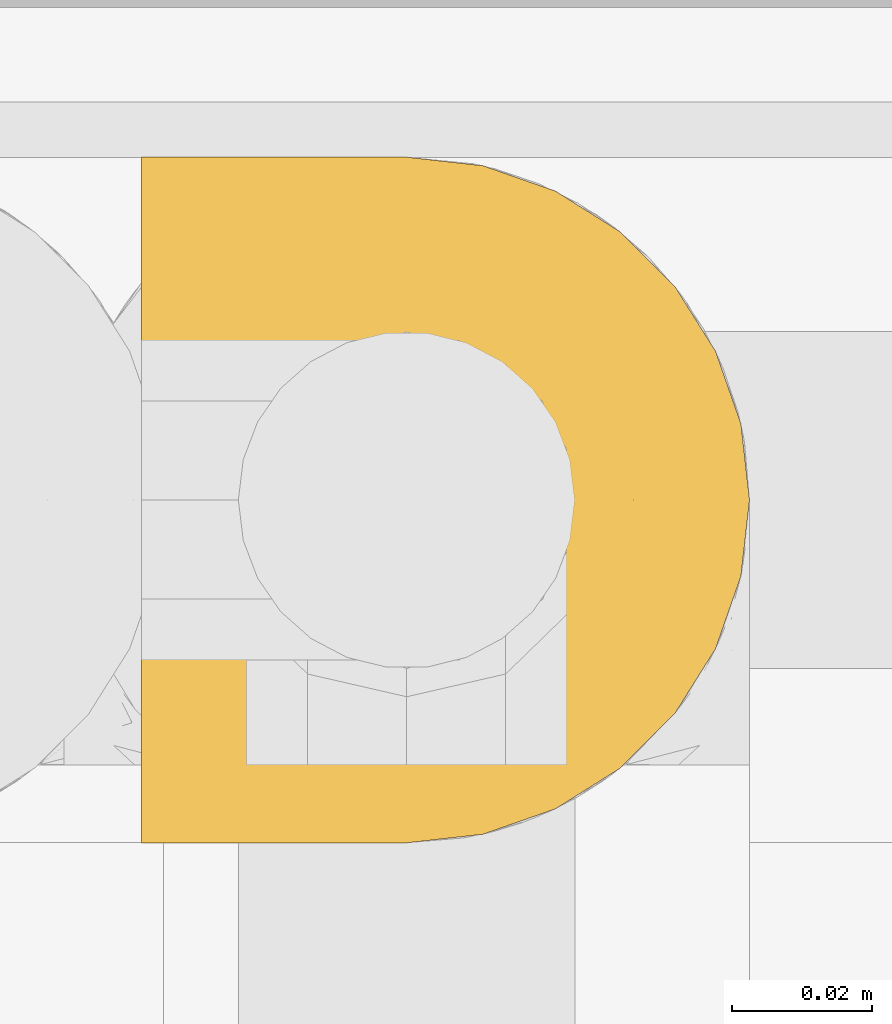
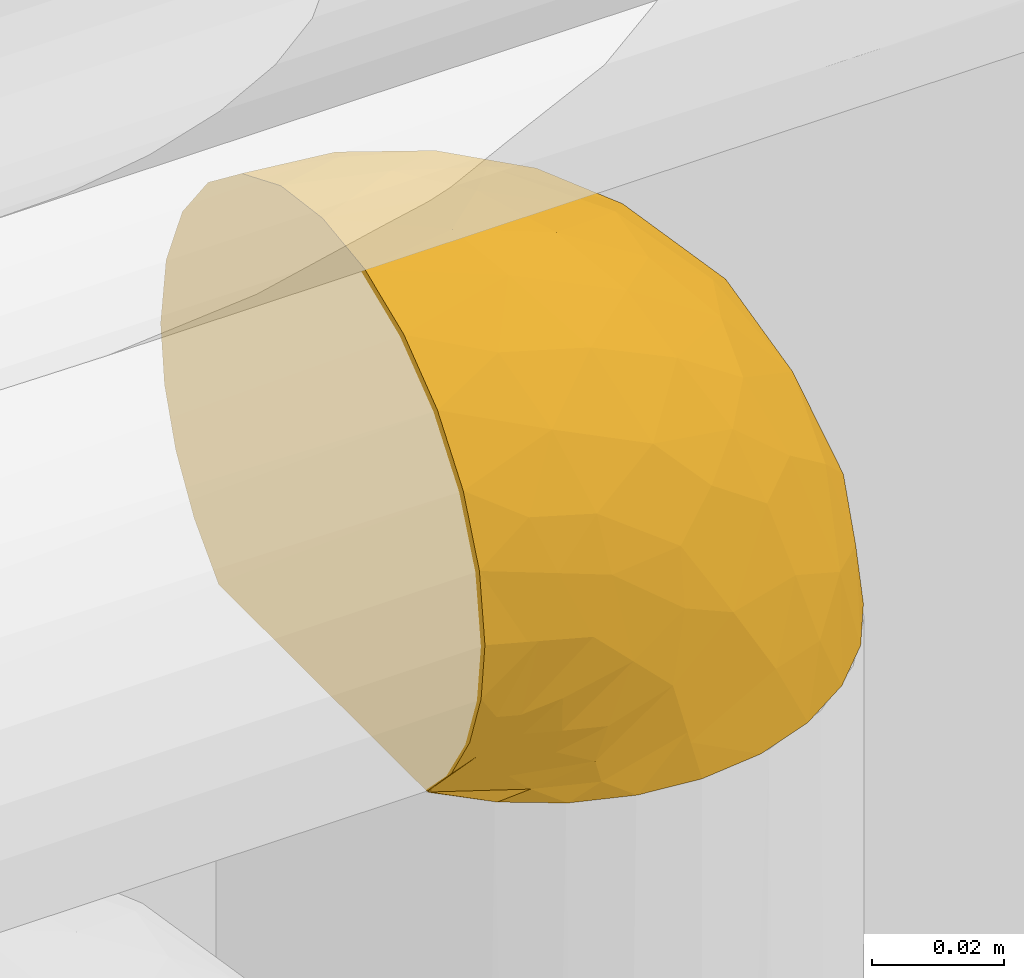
# One storey, part 50 of 94: 1 covering.
"""IFC2X3 building model written with IfcOpenShell, lengths in millimetres."""

from ifc_helpers import new_model, entity, si_unit, converted_unit, derived_unit, direction, frame, origin, place, context, subcontext, project, spatial, faceted_brep, material, element, save


model = new_model("IFC2X3")

# Units and contexts
model_context = context("Model", 3, precision=0.01, world=origin(), true_north=direction((6.123031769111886e-17, 1.0)))
body_context = subcontext(model_context, "Body", "Model", "MODEL_VIEW")
ifc_project = project(units=[si_unit("LENGTHUNIT", "METRE", prefix="MILLI"), si_unit("AREAUNIT", "SQUARE_METRE"), si_unit("VOLUMEUNIT", "CUBIC_METRE"), converted_unit("PLANEANGLEUNIT", "DEGREE", entity("IfcRatioMeasure", 0.017453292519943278), si_unit("PLANEANGLEUNIT", "RADIAN"), dimensions=[0, 0, 0, 0, 0, 0, 0]), si_unit("MASSUNIT", "GRAM", prefix="KILO"), derived_unit("MASSDENSITYUNIT", [(si_unit("MASSUNIT", "GRAM", prefix="KILO"), 1), (si_unit("LENGTHUNIT", "METRE"), -3)]), derived_unit("IONCONCENTRATIONUNIT", [(si_unit("MASSUNIT", "GRAM", prefix="KILO"), 1), (si_unit("LENGTHUNIT", "METRE"), -3)]), derived_unit("MOMENTOFINERTIAUNIT", [(si_unit("LENGTHUNIT", "METRE"), 4)]), si_unit("TIMEUNIT", "SECOND"), si_unit("FREQUENCYUNIT", "HERTZ"), si_unit("THERMODYNAMICTEMPERATUREUNIT", "DEGREE_CELSIUS"), derived_unit("THERMALTRANSMITTANCEUNIT", [(si_unit("MASSUNIT", "GRAM", prefix="KILO"), 1), (si_unit("THERMODYNAMICTEMPERATUREUNIT", "KELVIN"), -1), (si_unit("TIMEUNIT", "SECOND"), -3)]), derived_unit("THERMALCONDUCTANCEUNIT", [(si_unit("MASSUNIT", "GRAM", prefix="KILO"), 1), (si_unit("THERMODYNAMICTEMPERATUREUNIT", "KELVIN"), -1), (si_unit("TIMEUNIT", "SECOND"), -3), (si_unit("LENGTHUNIT", "METRE"), 1)]), derived_unit("VOLUMETRICFLOWRATEUNIT", [(si_unit("LENGTHUNIT", "METRE"), 3), (si_unit("TIMEUNIT", "SECOND"), -1)]), derived_unit("MASSFLOWRATEUNIT", [(si_unit("MASSUNIT", "GRAM", prefix="KILO"), 1), (si_unit("TIMEUNIT", "SECOND"), -1)]), derived_unit("ROTATIONALFREQUENCYUNIT", [(si_unit("TIMEUNIT", "SECOND"), -1)]), si_unit("ELECTRICCURRENTUNIT", "AMPERE"), si_unit("ELECTRICVOLTAGEUNIT", "VOLT"), si_unit("POWERUNIT", "WATT"), si_unit("FORCEUNIT", "NEWTON", prefix="KILO"), si_unit("ILLUMINANCEUNIT", "LUX"), si_unit("LUMINOUSFLUXUNIT", "LUMEN"), si_unit("LUMINOUSINTENSITYUNIT", "CANDELA"), derived_unit("USERDEFINED", [(si_unit("MASSUNIT", "GRAM", prefix="KILO"), -1), (si_unit("LENGTHUNIT", "METRE"), -2), (si_unit("TIMEUNIT", "SECOND"), 3), (si_unit("LUMINOUSFLUXUNIT", "LUMEN"), 1)]), derived_unit("USERDEFINED", [(si_unit("MASSUNIT", "GRAM", prefix="KILO"), 1), (si_unit("TIMEUNIT", "SECOND"), -3), (si_unit("LENGTHUNIT", "METRE"), 3), (si_unit("ELECTRICCURRENTUNIT", "AMPERE"), -2)]), derived_unit("SOUNDPOWERUNIT", [(si_unit("MASSUNIT", "GRAM", prefix="KILO"), 1), (si_unit("TIMEUNIT", "SECOND"), -3), (si_unit("LENGTHUNIT", "METRE"), 2)]), derived_unit("SOUNDPRESSUREUNIT", [(si_unit("MASSUNIT", "GRAM", prefix="KILO"), 1), (si_unit("LENGTHUNIT", "METRE"), -1), (si_unit("TIMEUNIT", "SECOND"), -2)]), derived_unit("LINEARVELOCITYUNIT", [(si_unit("LENGTHUNIT", "METRE"), 1), (si_unit("TIMEUNIT", "SECOND"), -1)]), si_unit("PRESSUREUNIT", "PASCAL"), derived_unit("USERDEFINED", [(si_unit("MASSUNIT", "GRAM", prefix="KILO"), 1), (si_unit("LENGTHUNIT", "METRE"), -2), (si_unit("TIMEUNIT", "SECOND"), -2)]), derived_unit("LINEARFORCEUNIT", [(si_unit("MASSUNIT", "GRAM", prefix="KILO"), 1), (si_unit("TIMEUNIT", "SECOND"), -2)]), derived_unit("PLANARFORCEUNIT", [(si_unit("MASSUNIT", "GRAM", prefix="KILO"), 1), (si_unit("LENGTHUNIT", "METRE"), -1), (si_unit("TIMEUNIT", "SECOND"), -2)]), derived_unit("SPECIFICHEATCAPACITYUNIT", [(si_unit("THERMODYNAMICTEMPERATUREUNIT", "KELVIN"), -1), (si_unit("LENGTHUNIT", "METRE"), 2), (si_unit("TIMEUNIT", "SECOND"), -2)]), derived_unit("HEATINGVALUEUNIT", [(si_unit("LENGTHUNIT", "METRE"), 2), (si_unit("TIMEUNIT", "SECOND"), -2)]), derived_unit("VAPORPERMEABILITYUNIT", [(si_unit("LENGTHUNIT", "METRE"), -1), (si_unit("TIMEUNIT", "SECOND"), 1)]), derived_unit("DYNAMICVISCOSITYUNIT", [(si_unit("MASSUNIT", "GRAM", prefix="KILO"), 1), (si_unit("TIMEUNIT", "SECOND"), -1), (si_unit("LENGTHUNIT", "METRE"), -1)]), derived_unit("THERMALEXPANSIONCOEFFICIENTUNIT", [(si_unit("THERMODYNAMICTEMPERATUREUNIT", "KELVIN"), -1)]), derived_unit("MODULUSOFELASTICITYUNIT", [(si_unit("MASSUNIT", "GRAM", prefix="KILO"), 1), (si_unit("LENGTHUNIT", "METRE"), -1), (si_unit("TIMEUNIT", "SECOND"), -2)]), derived_unit("ISOTHERMALMOISTURECAPACITYUNIT", [(si_unit("LENGTHUNIT", "METRE"), 3), (si_unit("MASSUNIT", "GRAM", prefix="KILO"), -1)]), derived_unit("MOISTUREDIFFUSIVITYUNIT", [(si_unit("TIMEUNIT", "SECOND"), -1), (si_unit("LENGTHUNIT", "METRE"), 2)])], contexts=[model_context])

# Site, building, storey
site_placement = place(None, origin())
site = spatial("IfcSite", under=ifc_project, at=site_placement, Name="Default", CompositionType="ELEMENT")
building_placement = place(site_placement, origin())
building = spatial("IfcBuilding", under=site, at=building_placement, CompositionType="ELEMENT")
storey_placement = place(building_placement, origin())
storey = spatial("IfcBuildingStorey", under=building, at=storey_placement, Name="Niveau 0", CompositionType="ELEMENT", Elevation=0.0)

# Covering
ifc_material = material(Name="Isolation - Laine minérale")
covering_placement = place(storey_placement, frame((-6966.335954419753, 9976.100352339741, 2400.745272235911)))
element("IfcCovering", 1, at=covering_placement, inside=storey, material=ifc_material, Name="Isolation des canalisations:Laine minérale", ObjectType="Isolation des canalisations:Laine minérale", PredefinedType="INSULATION", context=body_context, shape_type="Brep", body=[
    faceted_brep([(60.92840990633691, 95.02415814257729, -88.74527223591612), (70.2472924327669, 89.1663101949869, -88.74527223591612), (78.02799613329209, 81.38263886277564, -88.74527223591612), (83.88131648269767, 72.06354573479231, -88.74527223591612), (87.51440414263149, 61.67593083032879, -88.74527223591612), (88.74527223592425, 50.74527223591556, -88.74527223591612), (87.51173151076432, 39.80290363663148, -88.74527223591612), (83.8741581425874, 29.412134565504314, -88.74527223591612), (78.01631019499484, 20.093252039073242, -88.74527223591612), (70.23263886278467, 12.312548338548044, -88.74527223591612), (60.913545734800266, 6.459227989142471, -88.74527223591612), (50.52593083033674, 2.826140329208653, -88.74527223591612), (39.59527223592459, 1.5952722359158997, -88.74527223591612), (28.93618624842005, 2.765001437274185, -88.74527223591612), (18.787971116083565, 6.216868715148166, -88.74527223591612), (9.631578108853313, 11.785042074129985, -88.74527223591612), (1.908891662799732, 19.19437336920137, -88.74527223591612), (1.908891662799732, 21.638642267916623, -88.74527223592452), (1.908891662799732, 23.41569473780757, -88.74527223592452), (1.908891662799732, 25.192747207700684, -88.74527223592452), (1.908891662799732, 26.692340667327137, -88.74527223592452), (1.908891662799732, 28.191934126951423, -88.74527223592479), (1.908891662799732, 31.191121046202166, -88.74527223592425), (1.908891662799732, 34.19030796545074, -88.74527223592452), (1.908891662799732, 37.18949488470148, -88.74527223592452), (1.908891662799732, 40.18868180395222, -88.74527223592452), (1.908891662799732, 41.68827526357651, -88.74527223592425), (1.908891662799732, 43.1878687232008, -88.74527223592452), (1.908891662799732, 45.63213762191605, -88.74527223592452), (1.908891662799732, 48.07640652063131, -88.74527223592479), (1.908891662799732, 50.5206754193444, -88.74527223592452), (1.908891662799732, 52.96494431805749, -88.74527223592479), (1.908891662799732, 55.40921321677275, -88.74527223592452), (1.908891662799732, 57.853482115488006, -88.74527223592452), (1.908891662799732, 60.2977510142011, -88.74527223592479), (1.908891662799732, 62.74201991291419, -88.74527223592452), (1.908891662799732, 65.18628881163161, -88.74527223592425), (1.908891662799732, 67.6305577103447, -88.74527223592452), (1.908891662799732, 70.0748266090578, -88.74527223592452), (1.908891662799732, 72.51909550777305, -88.74527223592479), (1.908891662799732, 74.96336440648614, -88.74527223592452), (1.908891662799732, 77.4076333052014, -88.74527223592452), (1.908891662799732, 79.85190220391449, -88.74527223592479), (1.908891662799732, 82.29617110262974, -88.74527223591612), (9.648191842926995, 89.71827412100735, -88.74527223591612), (18.809406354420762, 95.28368576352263, -88.74527223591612), (28.956643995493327, 98.73008326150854, -88.74527223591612), (39.59527223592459, 99.89527223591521, -88.74527223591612), (50.53764083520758, 98.66173151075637, -88.74527223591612), (1.5952722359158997, 11.777056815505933, -80.69858068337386), (1.5952722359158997, 6.211862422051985, -71.54185633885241), (1.5952722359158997, 2.7632985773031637, -61.39669016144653), (1.5952722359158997, 1.5952722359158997, -50.74527223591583), (1.5952722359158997, 3.270017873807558, -38.02431616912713), (1.5952722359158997, 8.18012363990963, -26.170272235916), (1.5952722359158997, 15.990973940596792, -15.990973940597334), (1.5952722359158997, 26.170272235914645, -8.180123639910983), (1.5952722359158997, 38.02431616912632, -3.2700178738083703), (1.5952722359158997, 50.74527223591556, -1.5952722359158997), (1.5952722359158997, 63.46622830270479, -3.2700178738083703), (1.5952722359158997, 75.3202722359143, -8.180123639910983), (1.5952722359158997, 85.49957053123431, -15.990973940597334), (1.5952722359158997, 93.31042083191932, -26.170272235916), (1.5952722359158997, 98.22052659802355, -38.02431616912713), (1.5952722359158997, 99.89527223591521, -50.7452722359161), (1.5952722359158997, 98.72724589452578, -61.39669016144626), (1.5952722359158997, 95.27868204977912, -71.54185633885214), (1.5952722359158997, 89.71348765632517, -80.69858068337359), (1.5952722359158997, 82.29617110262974, -88.43165280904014), (1.5952722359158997, 79.85190220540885, -88.43165280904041), (1.5952722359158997, 78.3523087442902, -88.43165280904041), (1.5952722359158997, 76.3803775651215, -88.43165280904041), (1.5952722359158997, 74.40844638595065, -88.43165280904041), (1.5952722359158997, 72.43651520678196, -88.43165280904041), (1.5952722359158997, 70.46458402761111, -88.43165280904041), (1.5952722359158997, 68.49265284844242, -88.43165280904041), (1.5952722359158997, 66.52072166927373, -88.43165280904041), (1.5952722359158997, 64.54879049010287, -88.43165280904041), (1.5952722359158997, 62.57685931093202, -88.43165280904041), (1.5952722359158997, 60.60492813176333, -88.43165280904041), (1.5952722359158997, 58.632996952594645, -88.43165280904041), (1.5952722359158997, 56.66106577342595, -88.43165280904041), (1.5952722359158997, 54.6891345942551, -88.43165280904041), (1.5952722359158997, 52.71720341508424, -88.43165280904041), (1.5952722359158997, 50.74527223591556, -88.43165280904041), (1.5952722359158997, 48.773341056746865, -88.43165280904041), (1.5952722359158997, 46.80140987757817, -88.43165280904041), (1.5952722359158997, 44.82947869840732, -88.43165280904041), (1.5952722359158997, 42.85754751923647, -88.43165280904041), (1.5952722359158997, 40.88561634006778, -88.43165280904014), (1.5952722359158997, 38.913685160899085, -88.43165280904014), (1.5952722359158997, 36.94175398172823, -88.43165280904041), (1.5952722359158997, 34.96982280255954, -88.43165280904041), (1.5952722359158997, 31.97063588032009, -88.43165280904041), (1.5952722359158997, 28.971448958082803, -88.43165280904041), (1.5952722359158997, 26.5271800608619, -88.43165280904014), (1.5952722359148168, 24.082911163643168, -88.43165280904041), (1.5952722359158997, 21.638642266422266, -88.43165280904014), (1.5952722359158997, 19.19437336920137, -88.43165280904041), (1.809643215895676, 53.75333970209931, -88.51635690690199), (1.8184361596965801, 51.832765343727, -88.5249202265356), (1.8193226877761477, 61.47290163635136, -88.52582169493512), (1.8127644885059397, 63.562825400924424, -88.51932032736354), (1.7996191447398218, 48.00102702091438, -88.50736577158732), (1.8054799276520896, 77.2499939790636, -88.51252801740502), (1.8492387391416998, 80.69913834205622, -88.56126636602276), (1.8224415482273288, 42.43807145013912, -88.52905186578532), (1.817034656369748, 22.860776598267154, -88.5235098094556), (1.8150629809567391, 24.70021643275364, -88.52155551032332), (1.824011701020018, 71.3700895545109, -88.53071361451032), (1.8138012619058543, 73.40383885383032, -88.52032288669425), (1.8358544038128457, 44.410002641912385, -88.54408236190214), (1.810897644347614, 37.92771907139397, -88.51753811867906), (1.8073683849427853, 39.81308540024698, -88.51424763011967), (1.824691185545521, 35.95578792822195, -88.53144031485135), (1.8114022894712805, 49.75930651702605, -88.51801699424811), (1.8146264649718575, 21.02757498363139, -88.52112749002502), (1.8038954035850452, 55.67510065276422, -88.51110665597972), (1.8030656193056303, 67.50668767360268, -88.51037001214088), (1.8078125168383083, 65.61454699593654, -88.51465616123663), (1.8062814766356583, 34.104580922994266, -88.5132544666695), (1.8068444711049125, 57.55217518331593, -88.51376773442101), (1.8170346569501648, 79.10210557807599, -88.52350981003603), (1.8056127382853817, 75.39441218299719, -88.51264803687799), (1.8170346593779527, 82.29617110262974, -88.523509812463), (1.845664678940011, 82.29617110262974, -88.59262879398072), (1.8742946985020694, 82.2961711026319, -88.66174777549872), (1.8170346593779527, 19.19437336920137, -88.523509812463), (1.7479156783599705, 19.19437336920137, -88.49487979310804), (1.6787966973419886, 19.19437336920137, -88.46624977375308), (1.8305380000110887, 32.212157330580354, -88.5378905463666), (1.8101196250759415, 69.4355922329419, -88.51680397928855), (1.8180768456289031, 46.248287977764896, -88.52455691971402), (1.8158402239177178, 59.49061335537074, -88.522321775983), (1.8347511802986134, 29.41925201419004, -88.54277043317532), (1.8131030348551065, 27.44213716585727, -88.51964668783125), (1.6787966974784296, 82.29617110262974, -88.46624977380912), (1.7479156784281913, 82.29617110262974, -88.49487979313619), (1.8742946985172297, 19.19437336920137, -88.66174777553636), (1.8456646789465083, 19.19437336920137, -88.59262879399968), (5.119742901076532, 4.210283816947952, -66.84532494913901), (4.404433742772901, 8.744179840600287, -76.59278810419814), (9.262466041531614, 4.210283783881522, -67.93076460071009), (7.207652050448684, 9.955583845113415, -79.77802179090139), (11.095272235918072, 1.5952722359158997, -53.290789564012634), (9.051642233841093, 1.5952722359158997, -52.74320055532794), (34.50423757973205, 1.5952722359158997, -69.74527223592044), (23.94501445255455, 2.93549782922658, -74.3203947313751), (22.40014043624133, 4.213452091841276, -81.07886680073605), (20.595272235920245, 1.5952722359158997, -55.83630689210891), (9.666760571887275, 9.405305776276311, -80.67264697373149), (10.551623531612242, 9.963487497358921, -83.13763204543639), (16.01945088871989, 2.9356418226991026, -66.39579772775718), (23.485838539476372, 4.213452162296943, -85.22115378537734), (13.737180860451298, 8.750654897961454, -85.93765126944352), (10.691425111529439, 5.690627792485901, -72.79903813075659), (37.59734395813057, 1.5952722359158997, -81.28890239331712), (37.049754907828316, 1.5952722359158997, -79.24527223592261), (16.728859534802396, 4.482619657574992, -73.61168502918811), (27.549754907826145, 1.5952722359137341, -62.79078956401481), (16.460659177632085, 5.766057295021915, -78.26898539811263), (15.011407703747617, 2.6117250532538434, -42.71659351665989), (24.42980261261, 2.657531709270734, -46.33910334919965), (36.49293031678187, 11.131578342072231, -31.440845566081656), (31.204032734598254, 20.824647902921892, -17.672829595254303), (19.174422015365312, 11.7519547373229, -23.1389879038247), (23.335091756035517, 5.336592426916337, -36.26070217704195), (11.460031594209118, 5.33659286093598, -32.79943692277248), (52.82075697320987, 50.74527223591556, -18.239441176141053), (28.52610329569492, 50.74527223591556, -5.860696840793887), (36.46534309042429, 40.339739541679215, -10.09253095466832), (64.55560047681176, 9.12424327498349, -76.48910815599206), (54.096361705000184, 4.351045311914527, -75.175259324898), (60.7776621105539, 32.64695426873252, -29.562886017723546), (59.569862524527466, 23.768909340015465, -34.954708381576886), (75.0483217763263, 35.61531809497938, -46.443169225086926), (19.026686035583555, 41.696133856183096, -4.214063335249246), (43.09951705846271, 30.50981773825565, -17.108860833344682), (46.8366514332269, 21.748430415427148, -25.593158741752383), (15.050691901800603, 20.824647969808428, -12.936813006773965), (23.237814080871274, 31.9363827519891, -8.193374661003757), (53.24134352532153, 15.984346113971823, -37.51142897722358), (45.825367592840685, 9.509703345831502, -41.4615790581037), (56.63576814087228, 11.405769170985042, -49.733323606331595), (46.288849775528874, 3.723532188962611, -61.57059128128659), (60.29646320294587, 9.124242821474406, -62.89209880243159), (72.02820629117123, 15.984347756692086, -70.54017915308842), (84.47984763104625, 50.74527223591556, -61.81444117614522), (83.29913826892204, 34.50535109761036, -67.62492254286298), (64.72607481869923, 18.53593481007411, -48.02305876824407), (74.45362859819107, 24.588194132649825, -56.65671676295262), (79.74013519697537, 24.58819389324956, -73.53357104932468), (51.83676030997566, 39.07585882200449, -19.26196392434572), (64.99536385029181, 42.346184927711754, -30.008052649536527), (37.17704034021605, 2.563252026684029, -56.96722300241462), (72.10110329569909, 50.74527223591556, -37.51978749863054), (37.64584570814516, 4.72244931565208, -46.87511479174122), (32.164652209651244, 69.55416102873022, -11.140369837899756), (18.639631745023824, 59.5851078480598, -4.095656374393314), (35.766211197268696, 59.865425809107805, -9.502474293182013), (47.842493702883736, 66.13789702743, -17.812384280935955), (15.27818958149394, 69.55416221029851, -6.46656563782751), (65.81540325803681, 85.49332197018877, -54.5418837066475), (64.55420181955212, 78.98858976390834, -42.32008170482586), (74.46231326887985, 76.88743080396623, -56.65317707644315), (53.25075234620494, 85.49294527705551, -37.50209525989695), (54.62718238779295, 78.28666517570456, -30.584563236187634), (54.10903567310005, 97.13479117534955, -75.17052823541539), (19.802502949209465, 98.95303587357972, -44.78912737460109), (20.595272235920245, 99.89527223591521, -55.83630689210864), (11.095272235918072, 99.89527223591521, -53.290789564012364), (83.30424504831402, 66.97173870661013, -67.62586672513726), (21.09968330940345, 80.665896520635, -14.26340359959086), (60.31003237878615, 92.35692696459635, -62.885892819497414), (64.57029925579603, 92.35692651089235, -76.486535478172), (13.465140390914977, 89.73858944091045, -21.869885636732), (16.335810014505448, 96.15395178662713, -33.88211097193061), (41.93007422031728, 79.62483877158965, -22.251999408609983), (27.71501397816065, 89.7385902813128, -26.04782376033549), (59.119767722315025, 59.508159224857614, -24.3292880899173), (60.78019907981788, 68.83452868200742, -29.560349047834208), (10.513874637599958, 99.01263503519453, -42.32143211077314), (79.74926997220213, 76.88743104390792, -73.53143463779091), (75.05329716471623, 65.85652255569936, -46.439690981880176), (72.04103767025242, 85.49294363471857, -70.53686254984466), (46.290673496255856, 97.76388503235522, -61.55381762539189), (34.50423757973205, 99.89527223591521, -69.74527223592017), (36.10518198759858, 98.78930951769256, -54.85547791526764), (27.549754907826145, 99.89527223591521, -62.79078956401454), (37.59734395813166, 99.89527223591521, -81.28890239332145), (37.049754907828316, 99.89527223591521, -79.24527223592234), (41.92842909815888, 91.50386042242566, -37.17763207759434), (26.19749743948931, 96.4268312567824, -38.287459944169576), (50.23414181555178, 93.14991945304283, -48.939507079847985), (27.449810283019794, 99.08337182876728, -49.619322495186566), (42.66776613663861, 86.09107557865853, -29.42376899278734), (34.950986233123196, 96.67816905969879, -44.39993285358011), (9.262466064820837, 97.28026029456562, -67.93076584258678), (12.074879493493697, 95.72662397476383, -73.87629022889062), (16.019815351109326, 98.55465842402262, -66.39725193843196), (5.119743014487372, 97.28026045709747, -66.84532555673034), (4.404433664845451, 92.74636428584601, -76.59278866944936), (7.207972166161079, 91.53641117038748, -79.77567656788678), (7.658564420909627, 90.11275627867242, -82.68391989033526), (16.72348065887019, 97.0051951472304, -73.61706313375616), (10.58277305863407, 91.54965419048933, -83.12402653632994), (22.422090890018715, 97.2842704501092, -81.07735934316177), (23.507196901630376, 97.28427059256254, -85.22095110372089), (13.756054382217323, 92.75147496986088, -85.93466595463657), (23.942836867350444, 98.55441347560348, -74.32191718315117), (17.55671847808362, 95.80583125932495, -79.64839749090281)], [[[0, 1, 2, 3, 4, 5, 6, 7, 8, 9, 10, 11, 12, 13, 14, 15, 16, 17, 18, 19, 20, 21, 22, 23, 24, 25, 26, 27, 28, 29, 30, 31, 32, 33, 34, 35, 36, 37, 38, 39, 40, 41, 42, 43, 44, 45, 46, 47, 48]], [[49, 50, 51, 52, 53, 54, 55, 56, 57, 58, 59, 60, 61, 62, 63, 64, 65, 66, 67, 68, 69, 70, 71, 72, 73, 74, 75, 76, 77, 78, 79, 80, 81, 82, 83, 84, 85, 86, 87, 88, 89, 90, 91, 92, 93, 94, 95, 96, 97, 98]], [[99, 100, 83]], [[101, 102, 35]], [[85, 103, 86]], [[71, 70, 104]], [[105, 69, 68]], [[27, 26, 106]], [[18, 107, 108]], [[109, 73, 110]], [[28, 27, 111]], [[25, 112, 113]], [[108, 96, 95]], [[114, 92, 91]], [[103, 85, 115]], [[96, 107, 97]], [[107, 17, 116]], [[78, 102, 101]], [[99, 117, 32]], [[76, 118, 119]], [[120, 92, 114]], [[112, 90, 113]], [[88, 111, 106]], [[40, 39, 110]], [[107, 96, 108]], [[32, 117, 121]], [[91, 90, 112]], [[37, 119, 118]], [[84, 115, 85]], [[69, 105, 122]], [[71, 123, 72]], [[105, 124, 125, 126, 43]], [[116, 17, 16]], [[122, 70, 69]], [[41, 122, 42]], [[116, 127, 128, 129, 98]], [[110, 123, 40]], [[42, 122, 105]], [[120, 23, 130]], [[24, 114, 112]], [[114, 24, 23]], [[104, 123, 71]], [[91, 112, 114]], [[104, 122, 41]], [[24, 112, 25]], [[110, 72, 123]], [[36, 119, 37]], [[40, 123, 41]], [[74, 73, 109]], [[131, 75, 74]], [[118, 131, 37]], [[109, 110, 39]], [[109, 39, 38]], [[73, 72, 110]], [[123, 104, 41]], [[122, 104, 70]], [[26, 25, 113]], [[113, 89, 106]], [[87, 86, 132]], [[113, 106, 26]], [[76, 75, 118]], [[132, 111, 87]], [[106, 111, 27]], [[132, 28, 111]], [[87, 111, 88]], [[88, 106, 89]], [[113, 90, 89]], [[131, 118, 75]], [[38, 37, 131]], [[119, 36, 102]], [[131, 109, 38]], [[109, 131, 74]], [[78, 77, 102]], [[77, 119, 102]], [[77, 76, 119]], [[121, 80, 133]], [[36, 35, 102]], [[33, 121, 133]], [[79, 78, 101]], [[34, 101, 35]], [[132, 29, 28]], [[80, 79, 133]], [[29, 103, 115]], [[30, 29, 115]], [[86, 103, 132]], [[100, 115, 84]], [[31, 30, 100]], [[115, 100, 30]], [[32, 31, 99]], [[117, 81, 121]], [[100, 84, 83]], [[99, 82, 117]], [[81, 117, 82]], [[33, 32, 121]], [[82, 99, 83]], [[100, 99, 31]], [[34, 33, 133]], [[121, 81, 80]], [[133, 101, 34]], [[101, 133, 79]], [[134, 94, 93]], [[23, 120, 114]], [[132, 103, 29]], [[120, 93, 92]], [[93, 120, 130]], [[97, 107, 116]], [[108, 20, 19, 18]], [[21, 135, 134]], [[20, 135, 21]], [[134, 135, 94]], [[108, 95, 135]], [[108, 135, 20]], [[135, 95, 94]], [[134, 22, 21]], [[130, 22, 134]], [[42, 105, 43]], [[105, 68, 136, 137, 124]], [[97, 116, 98]], [[116, 16, 138, 139, 127]], [[18, 17, 107]], [[93, 130, 134]], [[22, 130, 23]], [[140, 141, 142]], [[143, 129, 128, 127]], [[51, 144, 145, 52]], [[146, 147, 148]], [[142, 149, 144]], [[150, 127, 151]], [[50, 140, 51]], [[142, 152, 149]], [[51, 140, 144]], [[129, 143, 141]], [[14, 13, 153]], [[148, 151, 154]], [[155, 141, 143]], [[151, 138, 154]], [[14, 153, 154]], [[16, 15, 138]], [[13, 12, 156, 157]], [[152, 155, 158]], [[159, 158, 147]], [[157, 148, 153]], [[14, 154, 15]], [[49, 98, 129]], [[49, 129, 141]], [[141, 50, 49]], [[160, 148, 147]], [[146, 148, 157]], [[138, 15, 154]], [[150, 158, 155]], [[151, 127, 139, 138]], [[141, 140, 50]], [[144, 140, 142]], [[157, 153, 13]], [[154, 153, 148]], [[149, 152, 159]], [[160, 147, 158]], [[147, 146, 159]], [[155, 152, 142]], [[159, 152, 158]], [[127, 150, 143]], [[160, 150, 151]], [[150, 160, 158]], [[148, 160, 151]], [[141, 155, 142]], [[155, 143, 150]], [[156, 12, 11]], [[161, 149, 162]], [[163, 164, 165]], [[166, 167, 161]], [[168, 169, 170]], [[54, 165, 55]], [[171, 172, 10]], [[173, 174, 175]], [[57, 176, 58]], [[173, 177, 178]], [[179, 56, 55]], [[54, 167, 165]], [[170, 180, 177]], [[56, 179, 180]], [[167, 54, 53]], [[181, 182, 183]], [[184, 146, 172]], [[172, 185, 184]], [[186, 185, 171]], [[186, 9, 8]], [[172, 146, 157, 156]], [[172, 11, 10]], [[173, 178, 174]], [[6, 187, 188]], [[189, 186, 190]], [[191, 186, 8]], [[175, 190, 188]], [[168, 192, 193]], [[189, 190, 174]], [[56, 180, 57]], [[8, 7, 191]], [[188, 7, 6]], [[6, 5, 187]], [[190, 191, 188]], [[159, 194, 162]], [[175, 187, 195]], [[177, 180, 164]], [[10, 9, 171]], [[176, 180, 170]], [[156, 11, 172]], [[163, 165, 166]], [[179, 165, 164]], [[53, 52, 145]], [[185, 189, 183]], [[184, 196, 194]], [[188, 191, 7]], [[186, 191, 190]], [[186, 171, 9]], [[172, 171, 185]], [[187, 175, 188]], [[193, 175, 195]], [[196, 163, 166]], [[163, 181, 178]], [[162, 166, 161]], [[184, 185, 183]], [[178, 177, 164]], [[177, 192, 170]], [[177, 173, 192]], [[176, 170, 169]], [[58, 176, 169]], [[57, 180, 176]], [[193, 192, 173]], [[168, 170, 192]], [[175, 193, 173]], [[168, 193, 195]], [[163, 178, 164]], [[184, 194, 146]], [[178, 181, 174]], [[189, 174, 181]], [[175, 174, 190]], [[183, 189, 181]], [[186, 189, 185]], [[182, 181, 163]], [[183, 182, 184]], [[163, 196, 182]], [[184, 182, 196]], [[165, 179, 55]], [[180, 179, 164]], [[161, 53, 145]], [[165, 167, 166]], [[53, 161, 167]], [[161, 145, 144, 149]], [[159, 162, 149]], [[196, 166, 162]], [[162, 194, 196]], [[146, 194, 159]], [[197, 198, 199]], [[58, 169, 198]], [[197, 199, 200]], [[198, 197, 201]], [[202, 203, 204]], [[60, 59, 201]], [[205, 206, 203]], [[0, 48, 207]], [[208, 209, 210]], [[187, 4, 211]], [[201, 212, 60]], [[213, 214, 207]], [[61, 215, 62]], [[62, 215, 216]], [[3, 211, 4]], [[217, 218, 212]], [[219, 220, 200]], [[216, 208, 221]], [[3, 2, 222]], [[62, 216, 63]], [[61, 60, 212]], [[211, 3, 222]], [[5, 4, 187]], [[217, 197, 200]], [[203, 223, 204]], [[2, 1, 224]], [[225, 213, 207]], [[204, 222, 224]], [[1, 0, 214]], [[204, 224, 202]], [[207, 226, 225]], [[227, 226, 228]], [[223, 211, 204]], [[214, 224, 1]], [[202, 224, 213]], [[48, 47, 229]], [[207, 229, 230, 226]], [[211, 223, 187]], [[218, 231, 232]], [[48, 229, 207]], [[205, 233, 231]], [[233, 213, 225]], [[217, 212, 197]], [[215, 212, 218]], [[228, 234, 227]], [[233, 205, 202]], [[208, 234, 209]], [[63, 221, 64]], [[235, 205, 231]], [[207, 214, 0]], [[224, 214, 213]], [[224, 222, 2]], [[211, 222, 204]], [[219, 223, 220]], [[187, 223, 195]], [[227, 233, 225]], [[234, 228, 209]], [[231, 233, 236]], [[221, 208, 210]], [[232, 208, 216]], [[64, 221, 210]], [[216, 221, 63]], [[233, 202, 213]], [[203, 202, 205]], [[205, 235, 206]], [[223, 203, 220]], [[200, 206, 217]], [[220, 203, 206]], [[232, 231, 236]], [[235, 218, 217]], [[212, 215, 61]], [[216, 215, 218]], [[218, 232, 216]], [[234, 232, 236]], [[232, 234, 208]], [[234, 236, 227]], [[233, 227, 236]], [[226, 227, 225]], [[198, 201, 59]], [[212, 201, 197]], [[58, 198, 59]], [[198, 169, 199]], [[169, 168, 199]], [[219, 200, 199]], [[219, 199, 168]], [[200, 220, 206]], [[168, 195, 219]], [[223, 219, 195]], [[218, 235, 231]], [[206, 235, 217]], [[65, 64, 210]], [[209, 237, 210]], [[238, 237, 239]], [[66, 240, 241]], [[242, 136, 241]], [[243, 137, 242]], [[243, 244, 245]], [[65, 240, 66]], [[136, 68, 67]], [[136, 67, 241]], [[246, 226, 230]], [[66, 241, 67]], [[210, 237, 240]], [[45, 247, 46]], [[209, 239, 237]], [[246, 247, 248]], [[46, 247, 230]], [[249, 250, 244]], [[239, 228, 244]], [[226, 246, 249]], [[250, 248, 245]], [[44, 43, 126]], [[237, 242, 241]], [[248, 45, 44]], [[44, 126, 248]], [[46, 230, 229, 47]], [[245, 126, 125]], [[126, 245, 248]], [[243, 124, 137]], [[210, 240, 65]], [[241, 240, 237]], [[248, 247, 45]], [[230, 247, 246]], [[226, 249, 228]], [[238, 239, 244]], [[239, 209, 228]], [[250, 249, 246]], [[228, 249, 244]], [[243, 242, 238]], [[136, 242, 137]], [[124, 243, 125]], [[125, 243, 245]], [[243, 238, 244]], [[237, 238, 242]], [[248, 250, 246]], [[244, 250, 245]]]),
])

save(model, "model.ifc")
